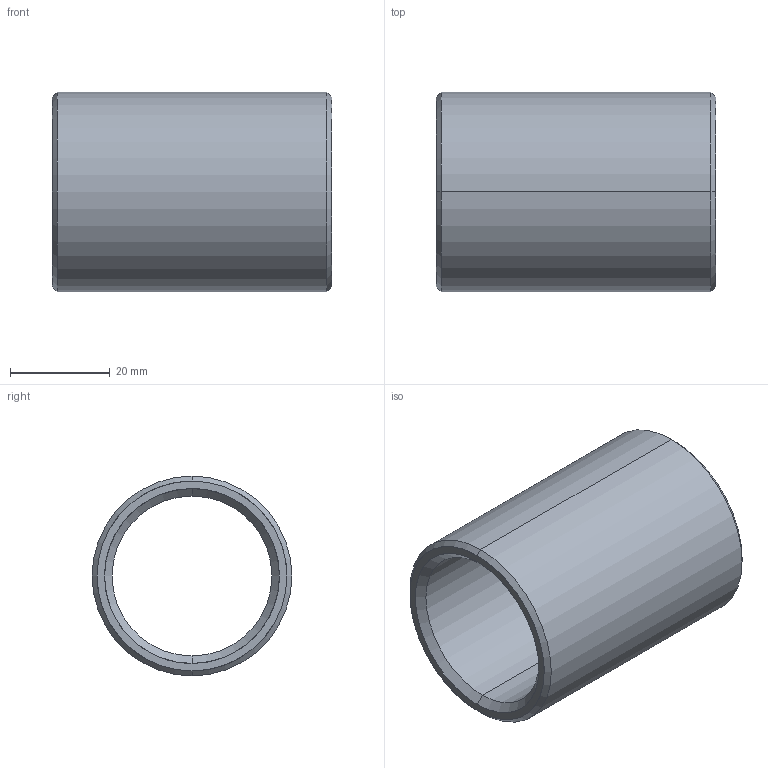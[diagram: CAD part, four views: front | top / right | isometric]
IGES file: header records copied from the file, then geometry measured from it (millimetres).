
Start section: START RECORD GO HERE.
Global section: file name: 352-32X56.igs; native system: DASSAULT SYSTEMES CATIA V5 R20 - www.3ds.com; preprocessor: CATIA Version 5 Release 20 ; author: Utente; organization: NB04-ASUS; date: 20210414.170134; units: millimetre
Bounding box: 56 x 40 x 40 mm (x, y, z)
Surface area: 13293.7 mm2 (no closed solid volume)
Topology: 0 solids, 0 shells, 14 faces, 88 edges, 88 vertices
Faces by surface type: revolution 12, plane 2
